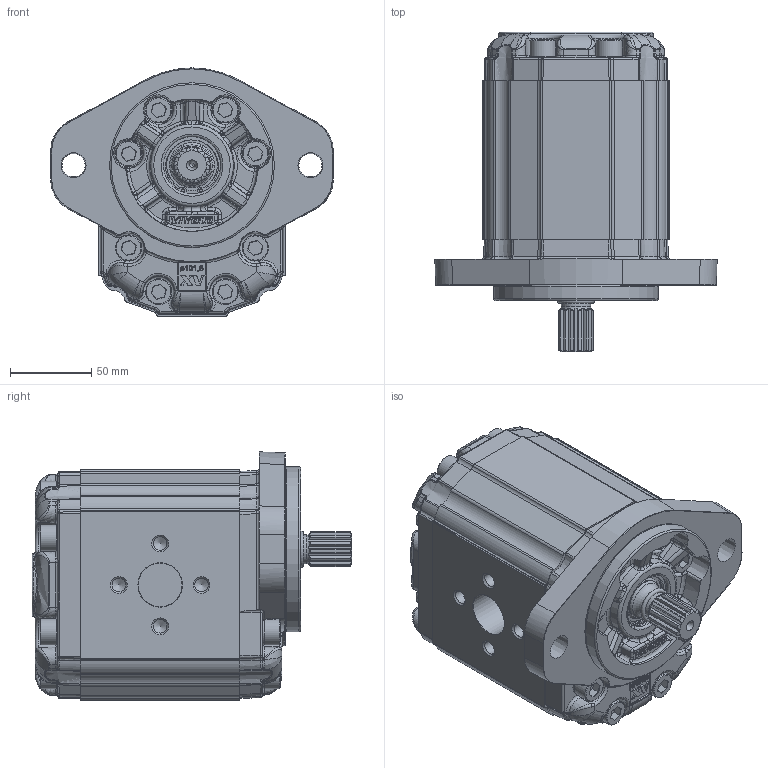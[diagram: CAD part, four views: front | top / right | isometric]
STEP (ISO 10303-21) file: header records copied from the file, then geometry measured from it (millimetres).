
FILE_DESCRIPTION(/* description */ ('Unknown'),/* implementation_level */ '2;1');
FILE_NAME(/* name */ 'X3P8231IBBA',/* time_stamp */ '2021-03-29T11:43:06+02:00',/* author */ ('Unknown'),/* organization */ ('Unknown'),/* preprocessor_version */ 'ST-DEVELOPER v16.7',/* originating_system */ 'Solid Edge',/* authorisation */ 'Unknown');
FILE_SCHEMA (('AUTOMOTIVE_DESIGN {1 0 10303 214 3 1 1}'));
Products named in the file (5): X3P8231IBBA; X3P31; 3I; X3BBH98; XP331-A
Assembly tree (4 placements, depth 2):
  X3P8231IBBA
    X3P31
    3I
    X3BBH98
    XP331-A
Bounding box: 174 x 197.2 x 153 mm (x, y, z)
Volume: 2243452.5 mm3; surface area: 213381.5 mm2
Topology: 4 solids, 21 shells, 3062 faces, 7898 edges, 4993 vertices
Faces by surface type: bspline 1317, plane 876, cylinder 654, cone 105, torus 94, sphere 16
Full cylindrical faces by diameter (mm): 2 x2, 8.376 x8, 10 x16, 15.8 x16, 16 x16, 18 x2, 24.98 x1, 25 x2, 25.968 x1, 27 x2, 28.16 x1, 31.293 x1, 32.742 x1, 34.956 x1, 35 x1, 35.2 x1, 37 x1, 101.6 x1
Entity records: 162906 total; most frequent: CARTESIAN_POINT 82491, ORIENTED_EDGE 15348, EDGE_CURVE 7674, DIRECTION 6756, B_SPLINE_CURVE_WITH_KNOTS 4985, VERTEX_POINT 4932, FACE_BOUND 3354, EDGE_LOOP 3344
